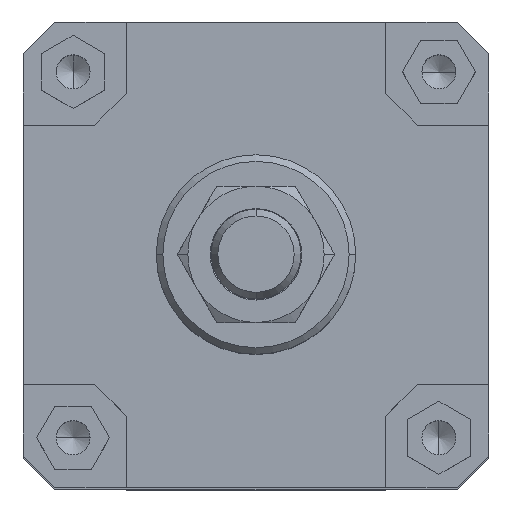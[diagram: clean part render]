
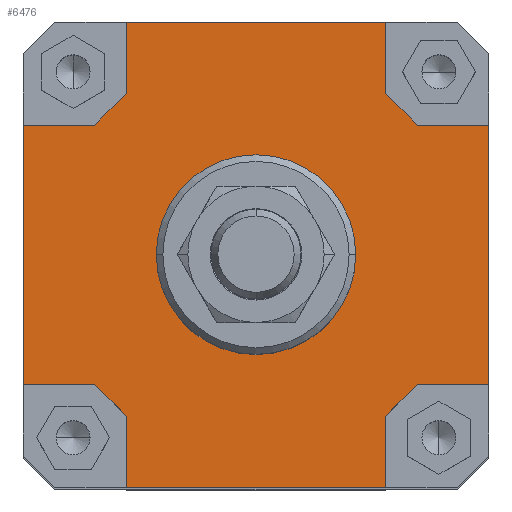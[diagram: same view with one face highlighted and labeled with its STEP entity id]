
A CAD part, top view. The second image highlights one B-rep face of the part: STEP entity #6476.
In plain terms, the highlighted planar face has unit normal (0, 0, 1).
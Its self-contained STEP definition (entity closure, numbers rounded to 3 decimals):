
#2320=CARTESIAN_POINT('',(-30.0,0.,205.0));
#2321=VERTEX_POINT('',#2320);
#2330=CARTESIAN_POINT('',(30.0,0.,205.0));
#2331=VERTEX_POINT('',#2330);
#2332=CARTESIAN_POINT('',(0.0,0.0,205.0));
#2333=DIRECTION('',(0.0,0.0,-1.0));
#2334=DIRECTION('',(-1.0,0.0,0.0));
#2335=AXIS2_PLACEMENT_3D('',#2332,#2333,#2334);
#2336=CIRCLE('',#2335,30.0);
#2337=EDGE_CURVE('',#2331,#2321,#2336,.T.);
#2557=CARTESIAN_POINT('',(0.0,0.0,205.0));
#2558=DIRECTION('',(0.0,0.0,-1.0));
#2559=DIRECTION('',(-1.0,0.0,0.0));
#2560=AXIS2_PLACEMENT_3D('',#2557,#2558,#2559);
#2561=CIRCLE('',#2560,30.0);
#2562=EDGE_CURVE('',#2321,#2331,#2561,.T.);
#2641=CARTESIAN_POINT('',(-39.,70.,205.0));
#2642=VERTEX_POINT('',#2641);
#2649=CARTESIAN_POINT('',(39.,70.,205.0));
#2650=VERTEX_POINT('',#2649);
#2651=CARTESIAN_POINT('',(-39.,70.,205.0));
#2652=DIRECTION('',(1.0,0.0,0.0));
#2653=VECTOR('',#2652,78.);
#2654=LINE('',#2651,#2653);
#2655=EDGE_CURVE('',#2642,#2650,#2654,.T.);
#3100=CARTESIAN_POINT('',(70.,39.,205.0));
#3101=VERTEX_POINT('',#3100);
#3108=CARTESIAN_POINT('',(70.,-39.0,205.0));
#3109=VERTEX_POINT('',#3108);
#3110=CARTESIAN_POINT('',(70.,39.,205.0));
#3111=DIRECTION('',(0.0,-1.0,0.0));
#3112=VECTOR('',#3111,78.);
#3113=LINE('',#3110,#3112);
#3114=EDGE_CURVE('',#3101,#3109,#3113,.T.);
#3181=CARTESIAN_POINT('',(-39.,-48.5,205.0));
#3182=VERTEX_POINT('',#3181);
#3189=CARTESIAN_POINT('',(-48.5,-39.,205.0));
#3190=VERTEX_POINT('',#3189);
#3191=CARTESIAN_POINT('',(-39.,-48.5,205.0));
#3192=DIRECTION('',(-0.707,0.707,0.0));
#3193=VECTOR('',#3192,13.435);
#3194=LINE('',#3191,#3193);
#3195=EDGE_CURVE('',#3182,#3190,#3194,.T.);
#3309=CARTESIAN_POINT('',(-70.,-39.,205.0));
#3310=VERTEX_POINT('',#3309);
#3311=CARTESIAN_POINT('',(-70.,-39.,205.0));
#3312=DIRECTION('',(1.0,0.0,0.0));
#3313=VECTOR('',#3312,21.5);
#3314=LINE('',#3311,#3313);
#3315=EDGE_CURVE('',#3310,#3190,#3314,.T.);
#3342=CARTESIAN_POINT('',(48.5,-39.,205.0));
#3343=VERTEX_POINT('',#3342);
#3350=CARTESIAN_POINT('',(39.,-48.5,205.0));
#3351=VERTEX_POINT('',#3350);
#3352=CARTESIAN_POINT('',(48.5,-39.,205.0));
#3353=DIRECTION('',(-0.707,-0.707,0.0));
#3354=VECTOR('',#3353,13.435);
#3355=LINE('',#3352,#3354);
#3356=EDGE_CURVE('',#3343,#3351,#3355,.T.);
#3454=CARTESIAN_POINT('',(39.,-70.,205.0));
#3455=VERTEX_POINT('',#3454);
#3456=CARTESIAN_POINT('',(39.,-70.,205.0));
#3457=DIRECTION('',(0.0,1.0,0.0));
#3458=VECTOR('',#3457,21.5);
#3459=LINE('',#3456,#3458);
#3460=EDGE_CURVE('',#3455,#3351,#3459,.T.);
#3487=CARTESIAN_POINT('',(39.,48.5,205.0));
#3488=VERTEX_POINT('',#3487);
#3495=CARTESIAN_POINT('',(48.5,39.,205.0));
#3496=VERTEX_POINT('',#3495);
#3497=CARTESIAN_POINT('',(39.,48.5,205.0));
#3498=DIRECTION('',(0.707,-0.707,0.0));
#3499=VECTOR('',#3498,13.435);
#3500=LINE('',#3497,#3499);
#3501=EDGE_CURVE('',#3488,#3496,#3500,.T.);
#3592=CARTESIAN_POINT('',(70.,39.,205.0));
#3593=DIRECTION('',(-1.0,0.0,0.0));
#3594=VECTOR('',#3593,21.5);
#3595=LINE('',#3592,#3594);
#3596=EDGE_CURVE('',#3101,#3496,#3595,.T.);
#3609=CARTESIAN_POINT('',(-48.5,39.,205.0));
#3610=VERTEX_POINT('',#3609);
#3617=CARTESIAN_POINT('',(-39.,48.5,205.0));
#3618=VERTEX_POINT('',#3617);
#3619=CARTESIAN_POINT('',(-48.5,39.,205.0));
#3620=DIRECTION('',(0.707,0.707,0.0));
#3621=VECTOR('',#3620,13.435);
#3622=LINE('',#3619,#3621);
#3623=EDGE_CURVE('',#3610,#3618,#3622,.T.);
#3640=CARTESIAN_POINT('',(-39.,70.,205.0));
#3641=DIRECTION('',(0.0,-1.0,0.0));
#3642=VECTOR('',#3641,21.5);
#3643=LINE('',#3640,#3642);
#3644=EDGE_CURVE('',#2642,#3618,#3643,.T.);
#4674=CARTESIAN_POINT('',(-70.,39.0,205.0));
#4675=VERTEX_POINT('',#4674);
#4676=CARTESIAN_POINT('',(-70.,-39.,205.0));
#4677=DIRECTION('',(0.0,1.0,0.0));
#4678=VECTOR('',#4677,78.0);
#4679=LINE('',#4676,#4678);
#4680=EDGE_CURVE('',#3310,#4675,#4679,.T.);
#6070=CARTESIAN_POINT('',(-48.5,39.,205.0));
#6071=DIRECTION('',(-1.0,0.0,0.0));
#6072=VECTOR('',#6071,21.5);
#6073=LINE('',#6070,#6072);
#6074=EDGE_CURVE('',#3610,#4675,#6073,.T.);
#6231=CARTESIAN_POINT('',(39.,48.5,205.0));
#6232=DIRECTION('',(0.0,1.0,0.0));
#6233=VECTOR('',#6232,21.5);
#6234=LINE('',#6231,#6233);
#6235=EDGE_CURVE('',#3488,#2650,#6234,.T.);
#6392=CARTESIAN_POINT('',(48.5,-39.,205.0));
#6393=DIRECTION('',(1.0,0.0,0.0));
#6394=VECTOR('',#6393,21.5);
#6395=LINE('',#6392,#6394);
#6396=EDGE_CURVE('',#3343,#3109,#6395,.T.);
#6437=CARTESIAN_POINT('',(0.,0.,205.0));
#6438=DIRECTION('',(0.0,0.0,1.0));
#6439=DIRECTION('',(1.0,0.0,0.0));
#6440=AXIS2_PLACEMENT_3D('',#6437,#6438,#6439);
#6441=PLANE('',#6440);
#6442=ORIENTED_EDGE('',*,*,#3644,.T.);
#6443=ORIENTED_EDGE('',*,*,#3623,.F.);
#6444=ORIENTED_EDGE('',*,*,#6074,.T.);
#6445=ORIENTED_EDGE('',*,*,#4680,.F.);
#6446=ORIENTED_EDGE('',*,*,#3315,.T.);
#6447=ORIENTED_EDGE('',*,*,#3195,.F.);
#6448=CARTESIAN_POINT('',(-39.,-70.,205.0));
#6449=VERTEX_POINT('',#6448);
#6450=CARTESIAN_POINT('',(-39.,-48.5,205.0));
#6451=DIRECTION('',(0.0,-1.0,0.0));
#6452=VECTOR('',#6451,21.5);
#6453=LINE('',#6450,#6452);
#6454=EDGE_CURVE('',#3182,#6449,#6453,.T.);
#6455=ORIENTED_EDGE('',*,*,#6454,.T.);
#6456=CARTESIAN_POINT('',(39.,-70.,205.0));
#6457=DIRECTION('',(-1.0,0.0,0.0));
#6458=VECTOR('',#6457,78.);
#6459=LINE('',#6456,#6458);
#6460=EDGE_CURVE('',#3455,#6449,#6459,.T.);
#6461=ORIENTED_EDGE('',*,*,#6460,.F.);
#6462=ORIENTED_EDGE('',*,*,#3460,.T.);
#6463=ORIENTED_EDGE('',*,*,#3356,.F.);
#6464=ORIENTED_EDGE('',*,*,#6396,.T.);
#6465=ORIENTED_EDGE('',*,*,#3114,.F.);
#6466=ORIENTED_EDGE('',*,*,#3596,.T.);
#6467=ORIENTED_EDGE('',*,*,#3501,.F.);
#6468=ORIENTED_EDGE('',*,*,#6235,.T.);
#6469=ORIENTED_EDGE('',*,*,#2655,.F.);
#6470=EDGE_LOOP('',(#6442,#6443,#6444,#6445,#6446,#6447,#6455,#6461,#6462,#6463,#6464,#6465,#6466,#6467,#6468,#6469));
#6471=FACE_OUTER_BOUND('',#6470,.T.);
#6472=ORIENTED_EDGE('',*,*,#2337,.T.);
#6473=ORIENTED_EDGE('',*,*,#2562,.T.);
#6474=EDGE_LOOP('',(#6472,#6473));
#6475=FACE_BOUND('',#6474,.T.);
#6476=ADVANCED_FACE('',(#6471,#6475),#6441,.T.);
